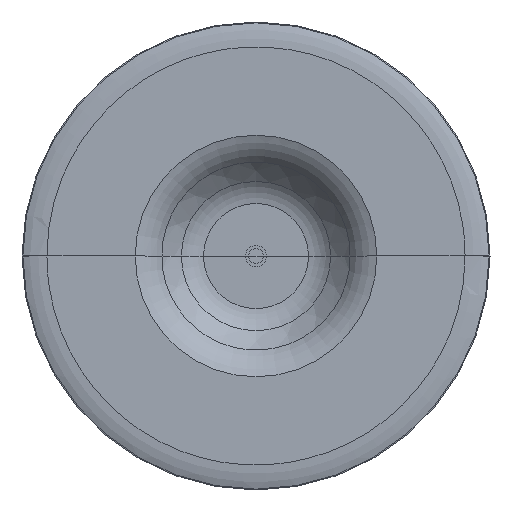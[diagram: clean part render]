
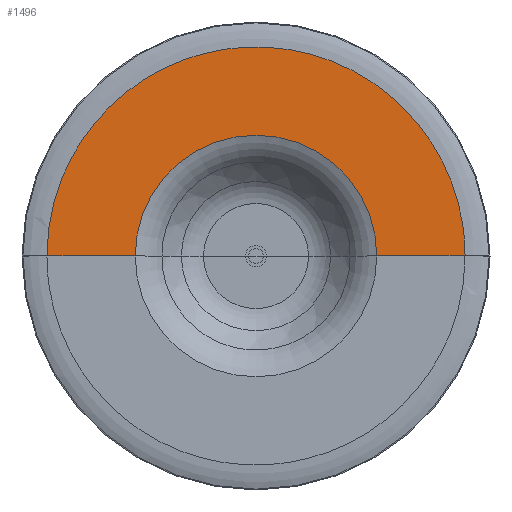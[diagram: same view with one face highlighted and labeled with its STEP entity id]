
A CAD part, top view. The second image highlights one B-rep face of the part: STEP entity #1496.
In plain terms, the highlighted planar face has unit normal (0, 0, 1).
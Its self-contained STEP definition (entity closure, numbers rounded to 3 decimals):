
#82=B_SPLINE_CURVE_WITH_KNOTS('',3,(#3311,#3312,#3313,#3314,#3315,#3316,
#3317,#3318,#3319,#3320,#3321,#3322),.UNSPECIFIED.,.F.,.F.,(4,1,1,1,1,1,
1,1,1,4),(0.,0.111,0.222,0.333,0.444,
0.556,0.667,0.778,0.889,
1.),.UNSPECIFIED.);
#147=PLANE('',#1662);
#235=FACE_OUTER_BOUND('',#351,.T.);
#351=EDGE_LOOP('',(#1281,#1282,#1283,#1284));
#455=LINE('',#3295,#549);
#456=LINE('',#3309,#550);
#549=VECTOR('',#2046,304.8);
#550=VECTOR('',#2047,304.8);
#621=CIRCLE('',#1660,56.818);
#735=VERTEX_POINT('',#3196);
#736=VERTEX_POINT('',#3243);
#737=VERTEX_POINT('',#3294);
#738=VERTEX_POINT('',#3296);
#917=EDGE_CURVE('',#735,#736,#621,.T.);
#918=EDGE_CURVE('',#737,#735,#455,.T.);
#920=EDGE_CURVE('',#736,#738,#456,.T.);
#921=EDGE_CURVE('',#737,#738,#82,.T.);
#1281=ORIENTED_EDGE('',*,*,#917,.T.);
#1282=ORIENTED_EDGE('',*,*,#920,.T.);
#1283=ORIENTED_EDGE('',*,*,#921,.F.);
#1284=ORIENTED_EDGE('',*,*,#918,.T.);
#1496=ADVANCED_FACE('',(#235),#147,.T.);
#1660=AXIS2_PLACEMENT_3D('',#3292,#2042,#2043);
#1662=AXIS2_PLACEMENT_3D('',#3310,#2048,#2049);
#2042=DIRECTION('center_axis',(0.,0.,-1.));
#2043=DIRECTION('ref_axis',(1.,0.,0.));
#2046=DIRECTION('',(1.,0.,0.));
#2047=DIRECTION('',(1.,0.,0.));
#2048=DIRECTION('center_axis',(0.,0.,1.));
#2049=DIRECTION('ref_axis',(1.,0.,0.));
#3196=CARTESIAN_POINT('',(-56.818,-1000.,450.));
#3243=CARTESIAN_POINT('',(56.818,-1000.,450.));
#3292=CARTESIAN_POINT('Origin',(0.,-1000.,450.));
#3294=CARTESIAN_POINT('',(-98.318,-1000.,450.));
#3295=CARTESIAN_POINT('',(-98.318,-1000.,450.));
#3296=CARTESIAN_POINT('',(98.318,-1000.,450.));
#3309=CARTESIAN_POINT('',(56.818,-1000.,450.));
#3310=CARTESIAN_POINT('Origin',(0.,-1000.,450.));
#3311=CARTESIAN_POINT('Ctrl Pts',(-98.318,-1000.,450.));
#3312=CARTESIAN_POINT('Ctrl Pts',(-98.4,-988.531,450.));
#3313=CARTESIAN_POINT('Ctrl Pts',(-94.246,-965.697,450.));
#3314=CARTESIAN_POINT('Ctrl Pts',(-76.871,-935.502,450.));
#3315=CARTESIAN_POINT('Ctrl Pts',(-50.165,-913.108,450.));
#3316=CARTESIAN_POINT('Ctrl Pts',(-17.424,-901.189,450.));
#3317=CARTESIAN_POINT('Ctrl Pts',(17.424,-901.189,450.));
#3318=CARTESIAN_POINT('Ctrl Pts',(50.165,-913.108,450.));
#3319=CARTESIAN_POINT('Ctrl Pts',(76.871,-935.502,450.));
#3320=CARTESIAN_POINT('Ctrl Pts',(94.246,-965.697,450.));
#3321=CARTESIAN_POINT('Ctrl Pts',(98.4,-988.531,450.));
#3322=CARTESIAN_POINT('Ctrl Pts',(98.318,-1000.,450.));
